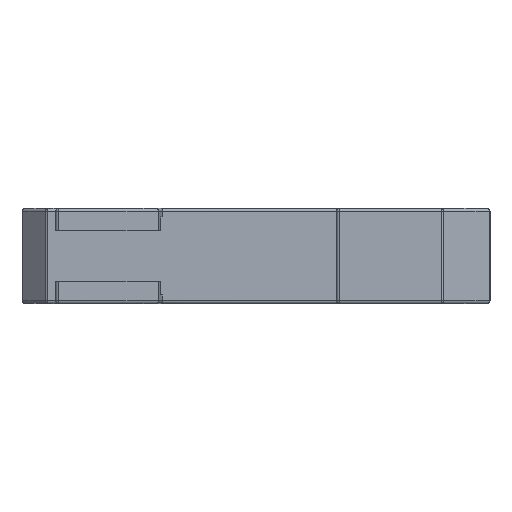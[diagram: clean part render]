
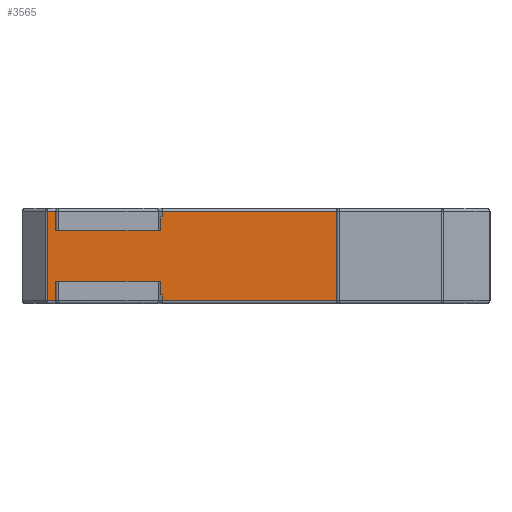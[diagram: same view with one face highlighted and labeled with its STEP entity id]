
A CAD part, front view. The second image highlights one B-rep face of the part: STEP entity #3565.
In plain terms, the highlighted planar face has unit normal (0, -1, 0).
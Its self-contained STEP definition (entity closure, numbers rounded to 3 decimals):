
#108=PLANE('',#3957);
#298=FACE_OUTER_BOUND('',#539,.T.);
#539=EDGE_LOOP('',(#2685,#2686,#2687,#2688,#2689,#2690,#2691,#2692,#2693,
#2694,#2695,#2696));
#955=LINE('',#5634,#1269);
#965=LINE('',#5668,#1279);
#1026=LINE('',#5843,#1340);
#1029=LINE('',#5849,#1343);
#1030=LINE('',#5851,#1344);
#1031=LINE('',#5853,#1345);
#1032=LINE('',#5855,#1346);
#1033=LINE('',#5857,#1347);
#1034=LINE('',#5858,#1348);
#1035=LINE('',#5860,#1349);
#1036=LINE('',#5862,#1350);
#1037=LINE('',#5863,#1351);
#1269=VECTOR('',#4449,10.);
#1279=VECTOR('',#4485,10.);
#1340=VECTOR('',#4662,10.);
#1343=VECTOR('',#4667,10.);
#1344=VECTOR('',#4668,10.);
#1345=VECTOR('',#4669,10.);
#1346=VECTOR('',#4670,10.);
#1347=VECTOR('',#4671,10.);
#1348=VECTOR('',#4672,10.);
#1349=VECTOR('',#4673,10.);
#1350=VECTOR('',#4674,10.);
#1351=VECTOR('',#4675,10.);
#1601=VERTEX_POINT('',#5622);
#1605=VERTEX_POINT('',#5632);
#1610=VERTEX_POINT('',#5647);
#1616=VERTEX_POINT('',#5663);
#1672=VERTEX_POINT('',#5842);
#1674=VERTEX_POINT('',#5848);
#1675=VERTEX_POINT('',#5850);
#1676=VERTEX_POINT('',#5852);
#1677=VERTEX_POINT('',#5854);
#1678=VERTEX_POINT('',#5856);
#1679=VERTEX_POINT('',#5859);
#1680=VERTEX_POINT('',#5861);
#1941=EDGE_CURVE('',#1605,#1601,#955,.T.);
#1958=EDGE_CURVE('',#1616,#1610,#965,.T.);
#2045=EDGE_CURVE('',#1672,#1610,#1026,.T.);
#2048=EDGE_CURVE('',#1674,#1605,#1029,.T.);
#2049=EDGE_CURVE('',#1675,#1674,#1030,.T.);
#2050=EDGE_CURVE('',#1675,#1676,#1031,.T.);
#2051=EDGE_CURVE('',#1676,#1677,#1032,.T.);
#2052=EDGE_CURVE('',#1677,#1678,#1033,.T.);
#2053=EDGE_CURVE('',#1672,#1678,#1034,.T.);
#2054=EDGE_CURVE('',#1616,#1679,#1035,.T.);
#2055=EDGE_CURVE('',#1679,#1680,#1036,.T.);
#2056=EDGE_CURVE('',#1680,#1601,#1037,.T.);
#2685=ORIENTED_EDGE('',*,*,#1941,.F.);
#2686=ORIENTED_EDGE('',*,*,#2048,.F.);
#2687=ORIENTED_EDGE('',*,*,#2049,.F.);
#2688=ORIENTED_EDGE('',*,*,#2050,.T.);
#2689=ORIENTED_EDGE('',*,*,#2051,.T.);
#2690=ORIENTED_EDGE('',*,*,#2052,.T.);
#2691=ORIENTED_EDGE('',*,*,#2053,.F.);
#2692=ORIENTED_EDGE('',*,*,#2045,.T.);
#2693=ORIENTED_EDGE('',*,*,#1958,.F.);
#2694=ORIENTED_EDGE('',*,*,#2054,.T.);
#2695=ORIENTED_EDGE('',*,*,#2055,.T.);
#2696=ORIENTED_EDGE('',*,*,#2056,.T.);
#3565=ADVANCED_FACE('',(#298),#108,.T.);
#3957=AXIS2_PLACEMENT_3D('',#5847,#4665,#4666);
#4449=DIRECTION('',(1.,0.,0.));
#4485=DIRECTION('',(1.,0.,0.));
#4662=DIRECTION('',(0.,0.,1.));
#4665=DIRECTION('center_axis',(0.,-1.,0.));
#4666=DIRECTION('ref_axis',(0.,0.,-1.));
#4667=DIRECTION('',(0.,0.,1.));
#4668=DIRECTION('',(-1.,0.,0.));
#4669=DIRECTION('',(0.,0.,1.));
#4670=DIRECTION('',(1.,0.,0.));
#4671=DIRECTION('',(0.,0.,-1.));
#4672=DIRECTION('',(-1.,0.,0.));
#4673=DIRECTION('',(0.,0.,-1.));
#4674=DIRECTION('',(-1.,0.,0.));
#4675=DIRECTION('',(0.,0.,1.));
#5622=CARTESIAN_POINT('',(-24.188,-12.623,17.45));
#5632=CARTESIAN_POINT('',(-25.778,-12.623,17.45));
#5634=CARTESIAN_POINT('',(36.812,-12.623,17.45));
#5647=CARTESIAN_POINT('',(31.312,-12.623,17.45));
#5663=CARTESIAN_POINT('',(-3.688,-12.623,17.45));
#5668=CARTESIAN_POINT('',(36.812,-12.623,17.45));
#5842=CARTESIAN_POINT('',(31.312,-12.623,0.15));
#5843=CARTESIAN_POINT('',(31.312,-12.623,8.8));
#5847=CARTESIAN_POINT('Origin',(59.312,-12.623,0.));
#5848=CARTESIAN_POINT('',(-25.778,-12.623,0.15));
#5849=CARTESIAN_POINT('',(-25.778,-12.623,4.4));
#5850=CARTESIAN_POINT('',(-24.188,-12.623,0.15));
#5851=CARTESIAN_POINT('',(36.812,-12.623,0.15));
#5852=CARTESIAN_POINT('',(-24.188,-12.623,1.3));
#5853=CARTESIAN_POINT('',(-24.188,-12.623,0.));
#5854=CARTESIAN_POINT('',(-3.688,-12.623,1.3));
#5855=CARTESIAN_POINT('',(22.687,-12.623,1.3));
#5856=CARTESIAN_POINT('',(-3.688,-12.623,0.15));
#5857=CARTESIAN_POINT('',(-3.688,-12.623,0.));
#5858=CARTESIAN_POINT('',(36.812,-12.623,0.15));
#5859=CARTESIAN_POINT('',(-3.688,-12.623,16.3));
#5860=CARTESIAN_POINT('',(-3.688,-12.623,8.8));
#5861=CARTESIAN_POINT('',(-24.188,-12.623,16.3));
#5862=CARTESIAN_POINT('',(22.687,-12.623,16.3));
#5863=CARTESIAN_POINT('',(-24.188,-12.623,8.8));
